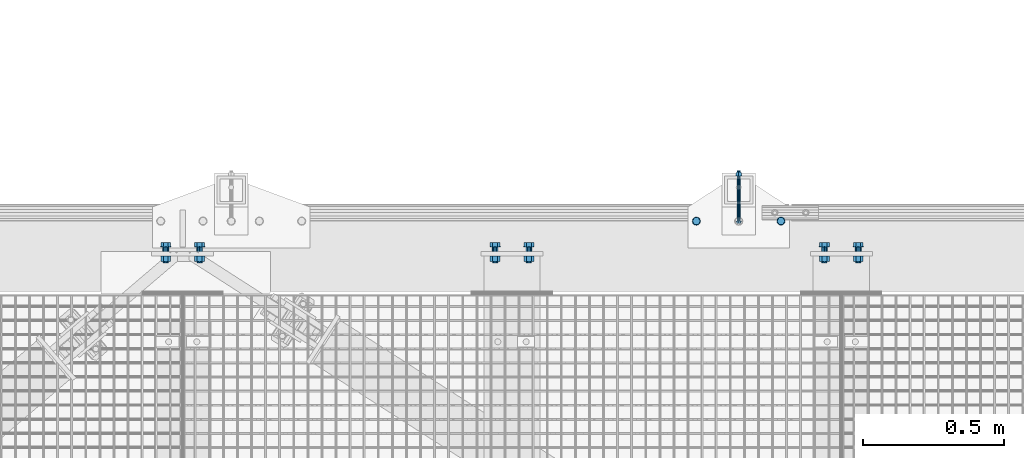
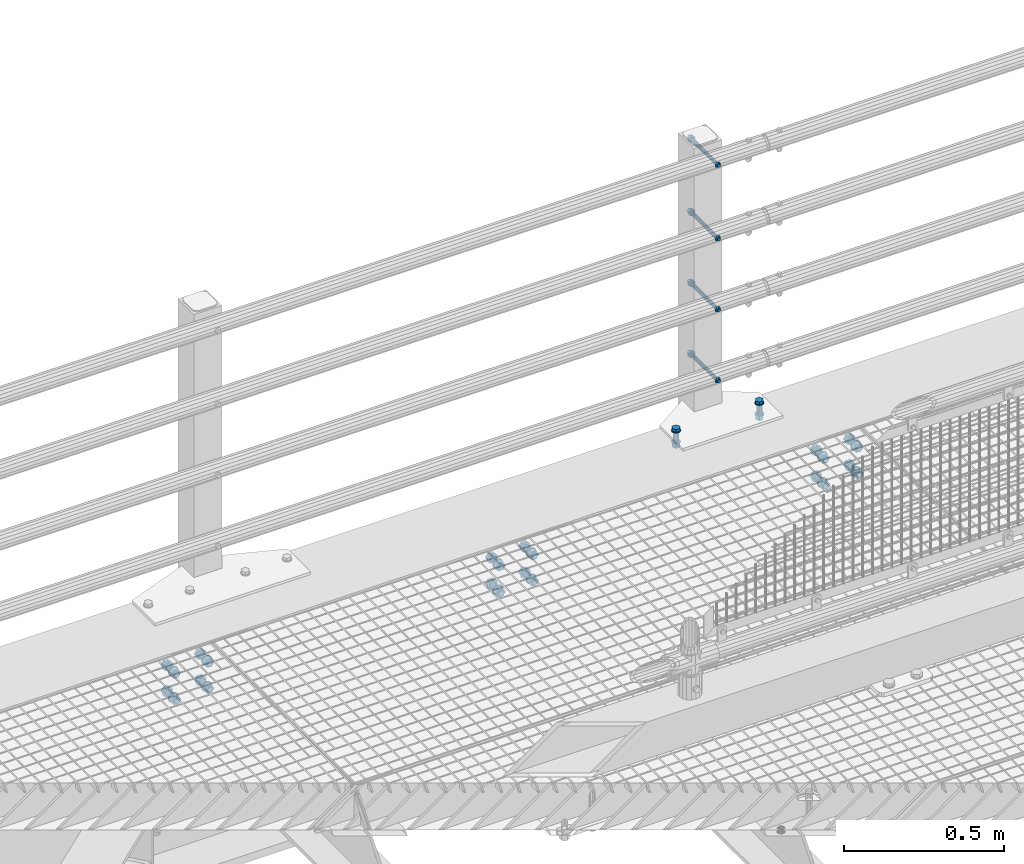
# One storey, part 43 of 1530: 8 mechanical fasteners.
"""IFC2X3 building model written with IfcOpenShell, lengths in millimetres."""

from ifc_helpers import new_model, si_unit, frame, origin_with_axes, place, context, subcontext, project, spatial, faceted_brep, source, transform, mapped, material, type_object, element, save


model = new_model("IFC2X3")

# Units and contexts
model_context = context("Model", 3, precision=1e-05, world=origin_with_axes())
body_context = subcontext(model_context, "Body", "Model", "MODEL_VIEW")
ifc_project = project(units=[si_unit("LENGTHUNIT", "METRE", prefix="MILLI"), si_unit("AREAUNIT", "SQUARE_METRE"), si_unit("VOLUMEUNIT", "CUBIC_METRE"), si_unit("MASSUNIT", "GRAM", prefix="KILO"), si_unit("TIMEUNIT", "SECOND"), si_unit("PLANEANGLEUNIT", "RADIAN"), si_unit("SOLIDANGLEUNIT", "STERADIAN"), si_unit("THERMODYNAMICTEMPERATUREUNIT", "DEGREE_CELSIUS"), si_unit("LUMINOUSINTENSITYUNIT", "LUMEN")], contexts=[model_context])

# Site, building, storey
site_placement = place(None, origin_with_axes())
site = spatial("IfcSite", under=ifc_project, at=site_placement, Name="Brattvåg", CompositionType="ELEMENT")
building_placement = place(site_placement, origin_with_axes())
building = spatial("IfcBuilding", under=site, at=building_placement, Name="Undefined", CompositionType="ELEMENT")
storey_placement = place(building_placement, origin_with_axes())
storey = spatial("IfcBuildingStorey", under=building, at=storey_placement, Name="Undefined", CompositionType="ELEMENT", Elevation=0.0)

# Mechanical fasteners
ifc_material = material(Name="8")
mechanical_fastener_type = type_object("IfcMechanicalFastenerType", Name="Bolt assembly")
shared_shape_1 = source(origin_with_axes(), body_context, "Body", "Brep", [
    faceted_brep([(6.49435320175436, -7.49984019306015, 0.0), (4.59220118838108, -7.49984019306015, 4.59220118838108), (3.97664443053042e-16, -7.49984019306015, 6.49435320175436), (-4.59220118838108, -7.49984019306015, 4.59220118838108), (-6.49435320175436, -7.49984019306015, 7.95328886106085e-16), (-4.59220118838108, -7.49984019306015, -4.59220118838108), (-1.19299332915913e-15, -7.49984019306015, -6.49435320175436), (4.59220118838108, -7.49984019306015, -4.59220118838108), (7.34846922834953, 0.000159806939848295, -7.34846922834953), (-1.90903542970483e-15, 0.000159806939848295, -10.3923048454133), (-7.34846922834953, 0.000159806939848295, -7.34846922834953), (-10.3923048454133, 0.000159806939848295, 1.27269028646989e-15), (-7.34846922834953, 0.000159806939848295, 7.34846922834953), (6.36345143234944e-16, 0.000159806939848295, 10.3923048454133), (7.34846922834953, 0.000159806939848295, 7.34846922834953), (10.3923048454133, 0.000159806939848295, 0.0), (6.0, 0.000159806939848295, 0.0), (5.19615242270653, 0.000159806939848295, 3.00000000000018), (2.99999999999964, 0.000159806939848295, 5.19615242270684), (-6.21801588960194e-13, 0.000159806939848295, 6.0), (-3.00000000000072, 0.000159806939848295, 5.19615242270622), (-5.19615242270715, 0.000159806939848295, 2.9999999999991), (-6.0, 0.000159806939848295, -1.24360317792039e-12), (-5.19615242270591, 0.000159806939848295, -3.00000000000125), (-2.99999999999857, 0.000159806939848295, -5.19615242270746), (1.85874342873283e-12, 0.000159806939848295, -6.0), (3.00000000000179, 0.000159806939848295, -5.1961524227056), (5.19615242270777, 0.000159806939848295, -2.99999999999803), (5.19615242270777, 180.00015980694, -2.99999999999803), (3.00000000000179, 180.00015980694, -5.1961524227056), (1.85874342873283e-12, 180.00015980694, -6.0), (-2.99999999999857, 180.00015980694, -5.19615242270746), (-5.19615242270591, 180.00015980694, -3.00000000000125), (-6.0, 180.00015980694, -1.24360317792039e-12), (-5.19615242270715, 180.00015980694, 2.9999999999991), (-3.00000000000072, 180.00015980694, 5.19615242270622), (-6.21801588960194e-13, 180.00015980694, 6.0), (2.99999999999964, 180.00015980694, 5.19615242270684), (5.19615242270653, 180.00015980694, 3.00000000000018), (6.0, 180.00015980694, 0.0), (12.0, 160.299998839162, 0.0), (10.3923048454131, 160.299998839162, 6.00000000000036), (5.99999999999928, 160.299998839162, 10.3923048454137), (-1.24360317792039e-12, 160.299998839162, 12.0), (-6.00000000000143, 160.299998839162, 10.3923048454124), (-10.3923048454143, 160.299998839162, 5.99999999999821), (-12.0, 160.299998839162, -2.48720635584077e-12), (-10.3923048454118, 160.299998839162, -6.00000000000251), (-5.99999999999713, 160.299998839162, -10.3923048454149), (3.71748685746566e-12, 160.299998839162, -12.0), (6.00000000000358, 160.299998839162, -10.3923048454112), (10.3923048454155, 160.299998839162, -5.99999999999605), (10.3923048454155, 162.799998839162, -5.99999999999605), (6.00000000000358, 162.799998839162, -10.3923048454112), (3.71748685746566e-12, 162.799998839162, -12.0), (-5.99999999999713, 162.799998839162, -10.3923048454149), (-10.3923048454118, 162.799998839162, -6.00000000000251), (-12.0, 162.799998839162, -2.48720635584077e-12), (-10.3923048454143, 162.799998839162, 5.99999999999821), (-6.00000000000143, 162.799998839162, 10.3923048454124), (-1.24360317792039e-12, 162.799998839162, 12.0), (5.99999999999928, 162.799998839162, 10.3923048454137), (10.3923048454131, 162.799998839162, 6.00000000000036), (12.0, 162.799998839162, 0.0), (10.9696551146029, 162.799998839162, 0.0), (5.48482755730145, 162.799998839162, 9.5), (-5.48482755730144, 162.799998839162, 9.5), (-10.9696551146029, 162.799998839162, 1.34339530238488e-15), (-5.48482755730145, 162.799998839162, -9.5), (5.48482755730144, 162.799998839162, -9.5), (5.48482755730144, 173.599999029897, -9.5), (-5.48482755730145, 173.599999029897, -9.5), (-10.9696551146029, 173.599999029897, 1.34339530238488e-15), (-5.48482755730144, 173.599999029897, 9.5), (5.48482755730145, 173.599999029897, 9.5), (10.9696551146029, 173.599999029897, 0.0)], [[[0, 1, 2, 3, 4, 5, 6, 7]], [[8, 9, 10, 11, 12, 13, 14, 15]], [[0, 15, 14, 1]], [[1, 14, 13, 2]], [[2, 13, 12, 3]], [[3, 12, 11, 4]], [[4, 11, 10, 5]], [[5, 10, 9, 6]], [[6, 9, 8, 7]], [[7, 8, 15, 0]], [[16, 17, 18, 19, 20, 21, 22, 23, 24, 25, 26, 27]], [[28, 29, 30, 31, 32, 33, 34, 35, 36, 37, 38, 39]], [[16, 39, 38, 17]], [[17, 38, 37, 18]], [[18, 37, 36, 19]], [[19, 36, 35, 20]], [[20, 35, 34, 21]], [[21, 34, 33, 22]], [[22, 33, 32, 23]], [[23, 32, 31, 24]], [[24, 31, 30, 25]], [[25, 30, 29, 26]], [[26, 29, 28, 27]], [[27, 28, 39, 16]], [[40, 41, 42, 43, 44, 45, 46, 47, 48, 49, 50, 51]], [[52, 53, 54, 55, 56, 57, 58, 59, 60, 61, 62, 63]], [[40, 63, 62, 41]], [[41, 62, 61, 42]], [[42, 61, 60, 43]], [[43, 60, 59, 44]], [[44, 59, 58, 45]], [[45, 58, 57, 46]], [[46, 57, 56, 47]], [[47, 56, 55, 48]], [[48, 55, 54, 49]], [[49, 54, 53, 50]], [[50, 53, 52, 51]], [[51, 52, 63, 40]], [[64, 65, 66, 67, 68, 69]], [[70, 71, 72, 73, 74, 75]], [[64, 75, 74, 65]], [[65, 74, 73, 66]], [[66, 73, 72, 67]], [[67, 72, 71, 68]], [[68, 71, 70, 69]], [[69, 70, 75, 64]]]),
    faceted_brep([(6.5, 0.100159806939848, 0.0), (5.62916512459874, 0.100159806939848, 3.25000000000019), (3.24999999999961, 0.100159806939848, 5.62916512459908), (-6.7361838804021e-13, 0.100159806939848, 6.5), (-3.25000000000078, 0.100159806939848, 5.6291651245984), (-5.62916512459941, 0.100159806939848, 3.24999999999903), (-6.5, 0.100159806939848, -1.34723677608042e-12), (-5.62916512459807, 0.100159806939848, -3.25000000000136), (-3.24999999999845, 0.100159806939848, -5.62916512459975), (2.01363871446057e-12, 0.100159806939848, -6.5), (3.25000000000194, 0.100159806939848, -5.62916512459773), (5.62916512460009, 0.100159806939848, -3.24999999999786), (5.62916512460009, 60.4001552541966, -3.24999999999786), (3.25000000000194, 60.4001552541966, -5.62916512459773), (2.01363871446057e-12, 60.4001552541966, -6.5), (-3.24999999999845, 60.4001552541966, -5.62916512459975), (-5.62916512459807, 60.4001552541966, -3.25000000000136), (-6.5, 60.4001552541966, -1.34723677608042e-12), (-5.62916512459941, 60.4001552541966, 3.24999999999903), (-3.25000000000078, 60.4001552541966, 5.6291651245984), (-6.7361838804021e-13, 60.4001552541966, 6.5), (3.24999999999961, 60.4001552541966, 5.62916512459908), (5.62916512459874, 60.4001552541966, 3.25000000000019), (6.5, 60.4001552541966, 0.0), (6.5, 60.1999988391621, 0.0), (5.62916512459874, 60.1999988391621, 3.25000000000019), (3.24999999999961, 60.1999988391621, 5.62916512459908), (-6.7361838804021e-13, 60.1999988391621, 6.5), (-3.25000000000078, 60.1999988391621, 5.6291651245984), (-5.62916512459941, 60.1999988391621, 3.24999999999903), (-6.5, 60.1999988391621, -1.34723677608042e-12), (-5.62916512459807, 60.1999988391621, -3.25000000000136), (-3.24999999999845, 60.1999988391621, -5.62916512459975), (2.01363871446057e-12, 60.1999988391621, -6.5), (3.25000000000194, 60.1999988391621, -5.62916512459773), (5.62916512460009, 60.1999988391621, -3.24999999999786), (5.62916512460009, 160.299998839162, -3.24999999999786), (3.25000000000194, 160.299998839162, -5.62916512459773), (2.01363871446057e-12, 160.299998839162, -6.5), (-3.24999999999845, 160.299998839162, -5.62916512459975), (-5.62916512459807, 160.299998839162, -3.25000000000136), (-6.5, 160.299998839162, -1.34723677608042e-12), (-5.62916512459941, 160.299998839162, 3.24999999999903), (-3.25000000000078, 160.299998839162, 5.6291651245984), (-6.7361838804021e-13, 160.299998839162, 6.5), (3.24999999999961, 160.299998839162, 5.62916512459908), (5.62916512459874, 160.299998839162, 3.25000000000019), (6.5, 160.299998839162, 0.0)], [[[0, 1, 2, 3, 4, 5, 6, 7, 8, 9, 10, 11]], [[12, 13, 14, 15, 16, 17, 18, 19, 20, 21, 22, 23]], [[0, 23, 22, 1]], [[1, 22, 21, 2]], [[2, 21, 20, 3]], [[3, 20, 19, 4]], [[4, 19, 18, 5]], [[5, 18, 17, 6]], [[6, 17, 16, 7]], [[7, 16, 15, 8]], [[8, 15, 14, 9]], [[9, 14, 13, 10]], [[10, 13, 12, 11]], [[11, 12, 23, 0]], [[24, 25, 26, 27, 28, 29, 30, 31, 32, 33, 34, 35]], [[36, 37, 38, 39, 40, 41, 42, 43, 44, 45, 46, 47]], [[24, 47, 46, 25]], [[25, 46, 45, 26]], [[26, 45, 44, 27]], [[27, 44, 43, 28]], [[28, 43, 42, 29]], [[29, 42, 41, 30]], [[30, 41, 40, 31]], [[31, 40, 39, 32]], [[32, 39, 38, 33]], [[33, 38, 37, 34]], [[34, 37, 36, 35]], [[35, 36, 47, 24]]]),
])
for number, where, z_axis, x_axis, name in (
    (1, (9549.9999999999, 9099.69972268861, 149.550000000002), (1.0, 0.0, 0.0), (0.0, 0.0, -1.0), "Bolt assembly"),
    (2, (9549.9999999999, 9099.69972268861, 419.550000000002), (1.0, 0.0, 0.0), (0.0, 0.0, -1.0), "Bolt assembly"),
    (3, (9549.9999999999, 9099.69972268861, 689.550000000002), (1.0, 0.0, 0.0), (0.0, 0.0, -1.0), "Bolt assembly"),
    (4, (9549.9999999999, 9099.69972268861, 969.550000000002), (1.0, 0.0, 0.0), (0.0, 0.0, -1.0), "Bolt assembly"),
):
    element("IfcMechanicalFastener", number, at=place(storey_placement, frame(where, z_axis=z_axis, x_axis=x_axis)), inside=storey, type_object=mechanical_fastener_type, material=ifc_material, Name=name, NominalDiameter=12.0, NominalLength=180.0, context=body_context, shape_type="MappedRepresentation", body=[
        mapped(shared_shape_1, transform((0.0, 0.0, 0.0))),
    ])
shared_shape_2 = source(origin_with_axes(), body_context, "Body", "Brep", [
    faceted_brep([(13.856406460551, -13.0, 0.0), (6.92820323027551, -13.0, 12.0), (-6.92820323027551, -13.0, 12.0), (-13.856406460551, -13.0, 1.69692038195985e-15), (-6.92820323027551, -13.0, -12.0), (6.9282032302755, -13.0, -12.0), (6.9282032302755, -3.0, -12.0), (-6.92820323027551, -3.0, -12.0), (-13.856406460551, -3.0, 1.69692038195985e-15), (-6.92820323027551, -3.0, 12.0), (6.92820323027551, -3.0, 12.0), (13.856406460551, -3.0, 0.0), (8.0, -3.0, 0.0), (6.92820323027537, -3.0, 4.00000000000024), (3.99999999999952, -3.0, 6.92820323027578), (-8.29068785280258e-13, -3.0, 8.0), (-4.00000000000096, -3.0, 6.92820323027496), (-6.9282032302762, -3.0, 3.99999999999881), (-8.0, -3.0, -1.65813757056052e-12), (-6.92820323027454, -3.0, -4.00000000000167), (-3.99999999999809, -3.0, -6.92820323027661), (2.47832457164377e-12, -3.0, -8.0), (4.00000000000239, -3.0, -6.92820323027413), (6.92820323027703, -3.0, -3.99999999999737), (6.92820323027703, 62.0000000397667, -3.99999999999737), (4.00000000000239, 62.0000000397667, -6.92820323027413), (2.47832457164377e-12, 62.0000000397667, -8.0), (-3.99999999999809, 62.0000000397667, -6.92820323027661), (-6.92820323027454, 62.0000000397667, -4.00000000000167), (-8.0, 62.0000000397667, -1.65813757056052e-12), (-6.9282032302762, 62.0000000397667, 3.99999999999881), (-4.00000000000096, 62.0000000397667, 6.92820323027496), (-8.29068785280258e-13, 62.0000000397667, 8.0), (3.99999999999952, 62.0000000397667, 6.92820323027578), (6.92820323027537, 62.0000000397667, 4.00000000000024), (8.0, 62.0000000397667, 0.0), (15.0, -3.0, 0.0), (12.9903810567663, -3.0, 7.50000000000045), (7.4999999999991, -3.0, 12.9903810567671), (-1.55450397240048e-12, -3.0, 15.0), (-7.50000000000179, -3.0, 12.9903810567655), (-12.9903810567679, -3.0, 7.49999999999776), (-15.0, -3.0, -3.10900794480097e-12), (-12.9903810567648, -3.0, -7.50000000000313), (-7.49999999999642, -3.0, -12.9903810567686), (4.64685857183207e-12, -3.0, -15.0), (7.50000000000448, -3.0, -12.990381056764), (12.9903810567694, -3.0, -7.49999999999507), (12.9903810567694, 0.0, -7.49999999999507), (7.50000000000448, 0.0, -12.990381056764), (0.0, 0.0, -15.0), (-7.49999999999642, 0.0, -12.9903810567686), (-12.9903810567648, 0.0, -7.50000000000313), (-15.0, 0.0, -3.10900794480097e-12), (-12.9903810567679, 0.0, 7.49999999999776), (-7.50000000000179, 0.0, 12.9903810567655), (0.0, 0.0, 15.0), (7.4999999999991, 0.0, 12.9903810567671), (12.9903810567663, 0.0, 7.50000000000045), (15.0, 0.0, 0.0), (15.0, 39.9997390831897, 0.0), (12.9903810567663, 39.9997390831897, 7.50000000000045), (7.4999999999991, 39.9997390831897, 12.9903810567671), (-1.55450397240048e-12, 39.9997390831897, 15.0), (-7.50000000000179, 39.9997390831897, 12.9903810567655), (-12.9903810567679, 39.9997390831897, 7.49999999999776), (-15.0, 39.9997390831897, -3.10900794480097e-12), (-12.9903810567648, 39.9997390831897, -7.50000000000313), (-7.49999999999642, 39.9997390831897, -12.9903810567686), (4.64685857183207e-12, 39.9997390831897, -15.0), (7.50000000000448, 39.9997390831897, -12.990381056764), (12.9903810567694, 39.9997390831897, -7.49999999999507), (12.9903810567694, 42.9997390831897, -7.49999999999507), (7.50000000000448, 42.9997390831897, -12.990381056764), (4.64685857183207e-12, 42.9997390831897, -15.0), (-7.49999999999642, 42.9997390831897, -12.9903810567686), (-12.9903810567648, 42.9997390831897, -7.50000000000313), (-15.0, 42.9997390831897, -3.10900794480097e-12), (-12.9903810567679, 42.9997390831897, 7.49999999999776), (-7.50000000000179, 42.9997390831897, 12.9903810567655), (-1.55450397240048e-12, 42.9997390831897, 15.0), (7.4999999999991, 42.9997390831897, 12.9903810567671), (12.9903810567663, 42.9997390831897, 7.50000000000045), (15.0, 42.9997390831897, 0.0), (13.856406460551, 42.9997390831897, 0.0), (6.92820323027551, 42.9997390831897, 12.0), (-6.92820323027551, 42.9997390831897, 12.0), (-13.856406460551, 42.9997390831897, 1.69692038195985e-15), (-6.92820323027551, 42.9997390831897, -12.0), (6.9282032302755, 42.9997390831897, -12.0), (6.9282032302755, 57.7997392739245, -12.0), (-6.92820323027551, 57.7997392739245, -12.0), (-13.856406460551, 57.7997392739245, 1.69692038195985e-15), (-6.92820323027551, 57.7997392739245, 12.0), (6.92820323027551, 57.7997392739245, 12.0), (13.856406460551, 57.7997392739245, 0.0)], [[[0, 1, 2, 3, 4, 5]], [[6, 7, 8, 9, 10, 11]], [[0, 11, 10, 1]], [[1, 10, 9, 2]], [[2, 9, 8, 3]], [[3, 8, 7, 4]], [[4, 7, 6, 5]], [[5, 6, 11, 0]], [[12, 13, 14, 15, 16, 17, 18, 19, 20, 21, 22, 23]], [[24, 25, 26, 27, 28, 29, 30, 31, 32, 33, 34, 35]], [[12, 35, 34, 13]], [[13, 34, 33, 14]], [[14, 33, 32, 15]], [[15, 32, 31, 16]], [[16, 31, 30, 17]], [[17, 30, 29, 18]], [[18, 29, 28, 19]], [[19, 28, 27, 20]], [[20, 27, 26, 21]], [[21, 26, 25, 22]], [[22, 25, 24, 23]], [[23, 24, 35, 12]], [[36, 37, 38, 39, 40, 41, 42, 43, 44, 45, 46, 47]], [[48, 49, 50, 51, 52, 53, 54, 55, 56, 57, 58, 59]], [[36, 59, 58, 37]], [[37, 58, 57, 38]], [[38, 57, 56, 39]], [[39, 56, 55, 40]], [[40, 55, 54, 41]], [[41, 54, 53, 42]], [[42, 53, 52, 43]], [[43, 52, 51, 44]], [[44, 51, 50, 45]], [[45, 50, 49, 46]], [[46, 49, 48, 47]], [[47, 48, 59, 36]], [[60, 61, 62, 63, 64, 65, 66, 67, 68, 69, 70, 71]], [[72, 73, 74, 75, 76, 77, 78, 79, 80, 81, 82, 83]], [[60, 83, 82, 61]], [[61, 82, 81, 62]], [[62, 81, 80, 63]], [[63, 80, 79, 64]], [[64, 79, 78, 65]], [[65, 78, 77, 66]], [[66, 77, 76, 67]], [[67, 76, 75, 68]], [[68, 75, 74, 69]], [[69, 74, 73, 70]], [[70, 73, 72, 71]], [[71, 72, 83, 60]], [[84, 85, 86, 87, 88, 89]], [[90, 91, 92, 93, 94, 95]], [[84, 95, 94, 85]], [[85, 94, 93, 86]], [[86, 93, 92, 87]], [[87, 92, 91, 88]], [[88, 91, 90, 89]], [[89, 90, 95, 84]]]),
    faceted_brep([(9.0, 0.1, 0.0), (7.79422863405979, 0.1, 4.50000000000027), (4.49999999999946, 0.1, 7.79422863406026), (-9.3270238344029e-13, 0.1, 9.0), (-4.50000000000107, 0.1, 7.79422863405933), (-7.79422863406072, 0.1, 4.49999999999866), (-9.0, 0.1, -1.86540476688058e-12), (-7.79422863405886, 0.1, -4.50000000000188), (-4.49999999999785, 0.1, -7.79422863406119), (2.78811514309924e-12, 0.1, -9.0), (4.50000000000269, 0.1, -7.7942286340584), (7.79422863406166, 0.1, -4.49999999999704), (7.79422863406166, 10.1, -4.49999999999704), (4.50000000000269, 10.1, -7.7942286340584), (2.78811514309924e-12, 10.1, -9.0), (-4.49999999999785, 10.1, -7.79422863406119), (-7.79422863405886, 10.1, -4.50000000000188), (-9.0, 10.1, -1.86540476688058e-12), (-7.79422863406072, 10.1, 4.49999999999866), (-4.50000000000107, 10.1, 7.79422863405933), (-9.3270238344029e-13, 10.1, 9.0), (4.49999999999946, 10.1, 7.79422863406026), (7.79422863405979, 10.1, 4.50000000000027), (9.0, 10.1, 0.0), (9.0, 9.8997390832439, 0.0), (7.79422863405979, 9.8997390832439, 4.50000000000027), (4.49999999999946, 9.8997390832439, 7.79422863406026), (-9.3270238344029e-13, 9.8997390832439, 9.0), (-4.50000000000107, 9.8997390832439, 7.79422863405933), (-7.79422863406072, 9.8997390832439, 4.49999999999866), (-9.0, 9.8997390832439, -1.86540476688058e-12), (-7.79422863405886, 9.8997390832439, -4.50000000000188), (-4.49999999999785, 9.8997390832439, -7.79422863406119), (2.78811514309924e-12, 9.8997390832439, -9.0), (4.50000000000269, 9.8997390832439, -7.7942286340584), (7.79422863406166, 9.8997390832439, -4.49999999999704), (7.79422863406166, 39.9997390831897, -4.49999999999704), (4.50000000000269, 39.9997390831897, -7.7942286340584), (2.78811514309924e-12, 39.9997390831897, -9.0), (-4.49999999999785, 39.9997390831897, -7.79422863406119), (-7.79422863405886, 39.9997390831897, -4.50000000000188), (-9.0, 39.9997390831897, -1.86540476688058e-12), (-7.79422863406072, 39.9997390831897, 4.49999999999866), (-4.50000000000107, 39.9997390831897, 7.79422863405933), (-9.3270238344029e-13, 39.9997390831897, 9.0), (4.49999999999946, 39.9997390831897, 7.79422863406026), (7.79422863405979, 39.9997390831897, 4.50000000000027), (9.0, 39.9997390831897, 0.0)], [[[0, 1, 2, 3, 4, 5, 6, 7, 8, 9, 10, 11]], [[12, 13, 14, 15, 16, 17, 18, 19, 20, 21, 22, 23]], [[0, 23, 22, 1]], [[1, 22, 21, 2]], [[2, 21, 20, 3]], [[3, 20, 19, 4]], [[4, 19, 18, 5]], [[5, 18, 17, 6]], [[6, 17, 16, 7]], [[7, 16, 15, 8]], [[8, 15, 14, 9]], [[9, 14, 13, 10]], [[10, 13, 12, 11]], [[11, 12, 23, 0]], [[24, 25, 26, 27, 28, 29, 30, 31, 32, 33, 34, 35]], [[36, 37, 38, 39, 40, 41, 42, 43, 44, 45, 46, 47]], [[24, 47, 46, 25]], [[25, 46, 45, 26]], [[26, 45, 44, 27]], [[27, 44, 43, 28]], [[28, 43, 42, 29]], [[29, 42, 41, 30]], [[30, 41, 40, 31]], [[31, 40, 39, 32]], [[32, 39, 38, 33]], [[33, 38, 37, 34]], [[34, 37, 36, 35]], [[35, 36, 47, 24]]]),
])
mechanical_fastener_placement = place(storey_placement, frame((9400.00080864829, 9099.99960715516, 9.99973908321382), z_axis=(0.0, 1.0, 0.0), x_axis=(1.0, 0.0, 0.0)))
element("IfcMechanicalFastener", 5, at=mechanical_fastener_placement, inside=storey, type_object=mechanical_fastener_type, material=ifc_material, Name="Bolt assembly", NominalDiameter=16.0, NominalLength=65.0, context=body_context, shape_type="MappedRepresentation", body=[
    mapped(shared_shape_2, transform((0.0, 0.0, 0.0))),
    mapped(shared_shape_2, transform((300.0, 0.0, 0.0))),
])
shared_shape_3 = source(origin_with_axes(), body_context, "Body", "Brep", [
    faceted_brep([(17.3205080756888, -31.4985046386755, 0.0), (8.66025403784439, -31.4985046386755, 15.0), (-8.66025403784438, -31.4985046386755, 15.0), (-17.3205080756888, -31.4985046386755, 2.12115047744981e-15), (-8.66025403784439, -31.4985046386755, -15.0), (8.66025403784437, -31.4985046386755, -15.0), (8.66025403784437, -18.9985046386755, -15.0), (-8.66025403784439, -18.9985046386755, -15.0), (-17.3205080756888, -18.9985046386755, 2.12115047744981e-15), (-8.66025403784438, -18.9985046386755, 15.0), (8.66025403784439, -18.9985046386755, 15.0), (17.3205080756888, -18.9985046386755, 0.0), (10.0, -18.9985046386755, 0.0), (8.66025403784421, -18.9985046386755, 5.0000000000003), (4.9999999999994, -18.9985046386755, 8.66025403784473), (-1.03633598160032e-12, -18.9985046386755, 10.0), (-5.00000000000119, -18.9985046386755, 8.6602540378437), (-8.66025403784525, -18.9985046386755, 4.99999999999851), (-10.0, -18.9985046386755, -2.07267196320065e-12), (-8.66025403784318, -18.9985046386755, -5.00000000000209), (-4.99999999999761, -18.9985046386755, -8.66025403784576), (3.09790571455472e-12, -18.9985046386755, -10.0), (5.00000000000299, -18.9985046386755, -8.66025403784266), (8.66025403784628, -18.9985046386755, -4.99999999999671), (8.66025403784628, 41.0014953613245, -4.99999999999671), (5.00000000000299, 41.0014953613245, -8.66025403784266), (3.09790571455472e-12, 41.0014953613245, -10.0), (-4.99999999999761, 41.0014953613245, -8.66025403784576), (-8.66025403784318, 41.0014953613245, -5.00000000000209), (-10.0, 41.0014953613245, -2.07267196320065e-12), (-8.66025403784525, 41.0014953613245, 4.99999999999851), (-5.00000000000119, 41.0014953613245, 8.6602540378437), (-1.03633598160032e-12, 41.0014953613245, 10.0), (4.9999999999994, 41.0014953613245, 8.66025403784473), (8.66025403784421, 41.0014953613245, 5.0000000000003), (10.0, 41.0014953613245, 0.0), (18.5, -18.9985046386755, 0.0), (16.0214699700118, -18.9985046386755, 9.25000000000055), (9.2499999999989, -18.9985046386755, 16.0214699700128), (-1.9172215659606e-12, -18.9985046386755, 18.5), (-9.25000000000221, -18.9985046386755, 16.0214699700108), (-16.0214699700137, -18.9985046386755, 9.24999999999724), (-18.5, -18.9985046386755, -3.83444313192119e-12), (-16.0214699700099, -18.9985046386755, -9.25000000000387), (-9.24999999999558, -18.9985046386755, -16.0214699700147), (5.73112557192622e-12, -18.9985046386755, -18.5), (9.25000000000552, -18.9985046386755, -16.0214699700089), (16.0214699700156, -18.9985046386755, -9.24999999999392), (16.0214699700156, -15.9985046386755, -9.24999999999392), (9.25000000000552, -15.9985046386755, -16.0214699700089), (5.73112557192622e-12, -15.9985046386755, -18.5), (-9.24999999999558, -15.9985046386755, -16.0214699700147), (-16.0214699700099, -15.9985046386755, -9.25000000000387), (-18.5, -15.9985046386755, -3.83444313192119e-12), (-16.0214699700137, -15.9985046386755, 9.24999999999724), (-9.25000000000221, -15.9985046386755, 16.0214699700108), (-1.9172215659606e-12, -15.9985046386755, 18.5), (9.2499999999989, -15.9985046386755, 16.0214699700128), (16.0214699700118, -15.9985046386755, 9.25000000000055), (18.5, -15.9985046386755, 0.0), (18.5, 15.0000000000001, 0.0), (16.0214699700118, 15.0000000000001, 9.25000000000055), (9.2499999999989, 15.0000000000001, 16.0214699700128), (-1.9172215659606e-12, 15.0000000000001, 18.5), (-9.25000000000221, 15.0000000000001, 16.0214699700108), (-16.0214699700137, 15.0000000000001, 9.24999999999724), (-18.5, 15.0000000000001, -3.83444313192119e-12), (-16.0214699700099, 15.0000000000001, -9.25000000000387), (-9.24999999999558, 15.0000000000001, -16.0214699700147), (5.73112557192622e-12, 15.0000000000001, -18.5), (9.25000000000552, 15.0000000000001, -16.0214699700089), (16.0214699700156, 15.0000000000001, -9.24999999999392), (16.0214699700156, 18.0000000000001, -9.24999999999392), (9.25000000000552, 18.0000000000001, -16.0214699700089), (5.73112557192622e-12, 18.0000000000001, -18.5), (-9.24999999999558, 18.0000000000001, -16.0214699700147), (-16.0214699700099, 18.0000000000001, -9.25000000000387), (-18.5, 18.0000000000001, -3.83444313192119e-12), (-16.0214699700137, 18.0000000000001, 9.24999999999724), (-9.25000000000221, 18.0000000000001, 16.0214699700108), (-1.9172215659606e-12, 18.0000000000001, 18.5), (9.2499999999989, 18.0000000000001, 16.0214699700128), (16.0214699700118, 18.0000000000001, 9.25000000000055), (18.5, 18.0000000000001, 0.0), (17.3205080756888, 18.0000000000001, 0.0), (8.66025403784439, 18.0000000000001, 15.0), (-8.66025403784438, 18.0000000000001, 15.0), (-17.3205080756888, 18.0000000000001, 2.12115047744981e-15), (-8.66025403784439, 18.0000000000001, -15.0), (8.66025403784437, 18.0000000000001, -15.0), (8.66025403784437, 36.0000000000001, -15.0), (-8.66025403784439, 36.0000000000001, -15.0), (-17.3205080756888, 36.0000000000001, 2.12115047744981e-15), (-8.66025403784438, 36.0000000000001, 15.0), (8.66025403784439, 36.0000000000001, 15.0), (17.3205080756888, 36.0000000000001, 0.0)], [[[0, 1, 2, 3, 4, 5]], [[6, 7, 8, 9, 10, 11]], [[0, 11, 10, 1]], [[1, 10, 9, 2]], [[2, 9, 8, 3]], [[3, 8, 7, 4]], [[4, 7, 6, 5]], [[5, 6, 11, 0]], [[12, 13, 14, 15, 16, 17, 18, 19, 20, 21, 22, 23]], [[24, 25, 26, 27, 28, 29, 30, 31, 32, 33, 34, 35]], [[12, 35, 34, 13]], [[13, 34, 33, 14]], [[14, 33, 32, 15]], [[15, 32, 31, 16]], [[16, 31, 30, 17]], [[17, 30, 29, 18]], [[18, 29, 28, 19]], [[19, 28, 27, 20]], [[20, 27, 26, 21]], [[21, 26, 25, 22]], [[22, 25, 24, 23]], [[23, 24, 35, 12]], [[36, 37, 38, 39, 40, 41, 42, 43, 44, 45, 46, 47]], [[48, 49, 50, 51, 52, 53, 54, 55, 56, 57, 58, 59]], [[36, 59, 58, 37]], [[37, 58, 57, 38]], [[38, 57, 56, 39]], [[39, 56, 55, 40]], [[40, 55, 54, 41]], [[41, 54, 53, 42]], [[42, 53, 52, 43]], [[43, 52, 51, 44]], [[44, 51, 50, 45]], [[45, 50, 49, 46]], [[46, 49, 48, 47]], [[47, 48, 59, 36]], [[60, 61, 62, 63, 64, 65, 66, 67, 68, 69, 70, 71]], [[72, 73, 74, 75, 76, 77, 78, 79, 80, 81, 82, 83]], [[60, 83, 82, 61]], [[61, 82, 81, 62]], [[62, 81, 80, 63]], [[63, 80, 79, 64]], [[64, 79, 78, 65]], [[65, 78, 77, 66]], [[66, 77, 76, 67]], [[67, 76, 75, 68]], [[68, 75, 74, 69]], [[69, 74, 73, 70]], [[70, 73, 72, 71]], [[71, 72, 83, 60]], [[84, 85, 86, 87, 88, 89]], [[90, 91, 92, 93, 94, 95]], [[84, 95, 94, 85]], [[85, 94, 93, 86]], [[86, 93, 92, 87]], [[87, 92, 91, 88]], [[88, 91, 90, 89]], [[89, 90, 95, 84]]]),
    faceted_brep([(11.0, -15.8985046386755, 0.0), (9.52627944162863, -15.8985046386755, 5.50000000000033), (5.49999999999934, -15.8985046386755, 9.5262794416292), (-1.13996957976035e-12, -15.8985046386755, 11.0), (-5.50000000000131, -15.8985046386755, 9.52627944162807), (-9.52627944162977, -15.8985046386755, 5.49999999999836), (-11.0, -15.8985046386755, -2.27993915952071e-12), (-9.5262794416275, -15.8985046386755, -5.5000000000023), (-5.49999999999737, -15.8985046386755, -9.52627944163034), (3.40769628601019e-12, -15.8985046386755, -11.0), (5.50000000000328, -15.8985046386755, -9.52627944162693), (9.52627944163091, -15.8985046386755, -5.49999999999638), (9.52627944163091, 0.101495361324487, -5.49999999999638), (5.50000000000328, 0.101495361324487, -9.52627944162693), (3.40769628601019e-12, 0.101495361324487, -11.0), (-5.49999999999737, 0.101495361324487, -9.52627944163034), (-9.5262794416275, 0.101495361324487, -5.5000000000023), (-11.0, 0.101495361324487, -2.27993915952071e-12), (-9.52627944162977, 0.101495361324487, 5.49999999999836), (-5.50000000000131, 0.101495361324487, 9.52627944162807), (-1.13996957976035e-12, 0.101495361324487, 11.0), (5.49999999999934, 0.101495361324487, 9.5262794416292), (9.52627944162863, 0.101495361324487, 5.50000000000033), (11.0, 0.101495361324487, 0.0), (11.0, -0.1, 0.0), (9.52627944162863, -0.1, 5.50000000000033), (5.49999999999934, -0.1, 9.5262794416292), (-1.13996957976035e-12, -0.1, 11.0), (-5.50000000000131, -0.1, 9.52627944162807), (-9.52627944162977, -0.1, 5.49999999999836), (-11.0, -0.1, -2.27993915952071e-12), (-9.5262794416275, -0.1, -5.5000000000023), (-5.49999999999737, -0.1, -9.52627944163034), (3.40769628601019e-12, -0.1, -11.0), (5.50000000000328, -0.1, -9.52627944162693), (9.52627944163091, -0.1, -5.49999999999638), (9.52627944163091, 15.0000000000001, -5.49999999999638), (5.50000000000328, 15.0000000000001, -9.52627944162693), (3.40769628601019e-12, 15.0000000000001, -11.0), (-5.49999999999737, 15.0000000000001, -9.52627944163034), (-9.5262794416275, 15.0000000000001, -5.5000000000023), (-11.0, 15.0000000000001, -2.27993915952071e-12), (-9.52627944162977, 15.0000000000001, 5.49999999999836), (-5.50000000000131, 15.0000000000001, 9.52627944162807), (-1.13996957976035e-12, 15.0000000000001, 11.0), (5.49999999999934, 15.0000000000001, 9.5262794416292), (9.52627944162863, 15.0000000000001, 5.50000000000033), (11.0, 15.0000000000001, 0.0)], [[[0, 1, 2, 3, 4, 5, 6, 7, 8, 9, 10, 11]], [[12, 13, 14, 15, 16, 17, 18, 19, 20, 21, 22, 23]], [[0, 23, 22, 1]], [[1, 22, 21, 2]], [[2, 21, 20, 3]], [[3, 20, 19, 4]], [[4, 19, 18, 5]], [[5, 18, 17, 6]], [[6, 17, 16, 7]], [[7, 16, 15, 8]], [[8, 15, 14, 9]], [[9, 14, 13, 10]], [[10, 13, 12, 11]], [[11, 12, 23, 0]], [[24, 25, 26, 27, 28, 29, 30, 31, 32, 33, 34, 35]], [[36, 37, 38, 39, 40, 41, 42, 43, 44, 45, 46, 47]], [[24, 47, 46, 25]], [[25, 46, 45, 26]], [[26, 45, 44, 27]], [[27, 44, 43, 28]], [[28, 43, 42, 29]], [[29, 42, 41, 30]], [[30, 41, 40, 31]], [[31, 40, 39, 32]], [[32, 39, 38, 33]], [[33, 38, 37, 34]], [[34, 37, 36, 35]], [[35, 36, 47, 24]]]),
])
for number, where, z_axis, x_axis, name in (
    (6, (7638.00196838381, 8992.00149536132, -219.998836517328), (0.0, 0.0, 1.0), (-1.0, 1.99999855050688e-09, 0.0), "Bolt assembly"),
    (7, (8806.00196838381, 8992.00149536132, -219.998836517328), (0.0, 0.0, 1.0), (-1.0, 1.99999855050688e-09, 0.0), "Bolt assembly"),
    (8, (9974.00196838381, 8992.00149536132, -219.998836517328), (0.0, 0.0, 1.0), (-1.0, 1.99999855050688e-09, 0.0), "Bolt assembly"),
):
    element("IfcMechanicalFastener", number, at=place(storey_placement, frame(where, z_axis=z_axis, x_axis=x_axis)), inside=storey, type_object=mechanical_fastener_type, material=ifc_material, Name=name, NominalDiameter=20.0, NominalLength=60.0, context=body_context, shape_type="MappedRepresentation", body=[
        mapped(shared_shape_3, transform((0.0, 0.0, -50.0))),
        mapped(shared_shape_3, transform((120.0, 0.0, -50.0))),
        mapped(shared_shape_3, transform((0.0, 0.0, 50.0))),
        mapped(shared_shape_3, transform((120.0, 0.0, 50.0))),
    ])

save(model, "model.ifc")
